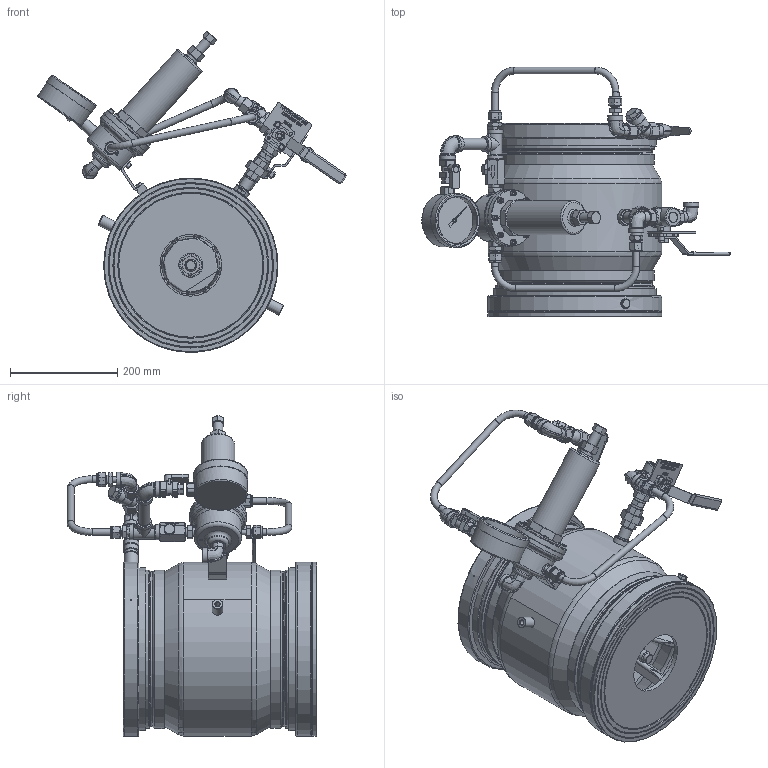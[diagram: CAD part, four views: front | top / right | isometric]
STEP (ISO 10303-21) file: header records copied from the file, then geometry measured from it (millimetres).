
FILE_DESCRIPTION(/* description */ (''),/* implementation_level */ '2;1');
FILE_NAME(/* name */ '799D-01S02 10in.stp',/* time_stamp */ '2025-02-23T15:10:16+02:00',/* author */ ('alex'),/* organization */ (''),/* preprocessor_version */ 'ST-DEVELOPER v20',/* originating_system */ 'Autodesk Inventor 2024',/* authorisation */ '');
FILE_SCHEMA (('AUTOMOTIVE_DESIGN { 1 0 10303 214 3 1 1 }'));
Products named in the file (1): 799D-01S02 10inSTEP
Bounding box: 573.93 x 463.95 x 596.6 mm (x, y, z)
Volume: 12490703.3 mm3; surface area: 2279787 mm2
Topology: 6 solids, 45 shells, 3016 faces, 7551 edges, 4755 vertices
Faces by surface type: plane 1402, cone 643, cylinder 530, bspline 332, torus 105, sphere 4
Full cylindrical faces by diameter (mm): 2 x4, 4 x10, 4.134 x1, 4.978 x2, 5 x11, 5.2 x10, 5.25 x2, 5.8 x4, 6 x2, 6.35 x10, 6.5 x8, 6.88 x2, 7 x2, 8 x1, 8.376 x2, 9.5 x1, 9.525 x8, 10 x3, 10.211 x6, 10.5 x6, 11 x1, 11.125 x2, 11.445 x2, 11.5 x2, 11.83 x1, 12.5 x1, 12.7 x6, 12.9 x7, 13 x2, 14 x4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
Entity records: 149609 total; most frequent: CARTESIAN_POINT 78577, ORIENTED_EDGE 14936, DIRECTION 13103, EDGE_CURVE 7468, AXIS2_PLACEMENT_3D 5055, VERTEX_POINT 4737, EDGE_LOOP 3388, ADVANCED_FACE 3014
